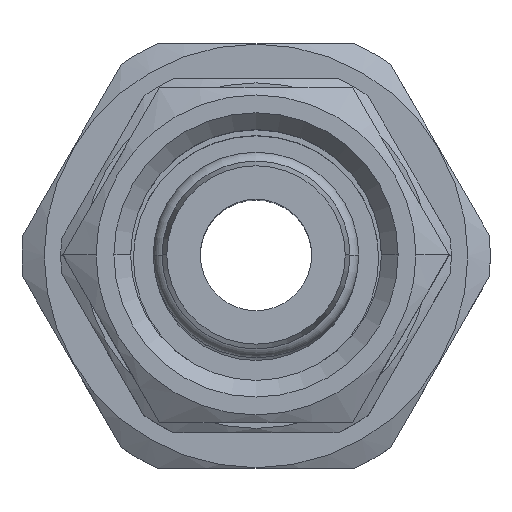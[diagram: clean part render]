
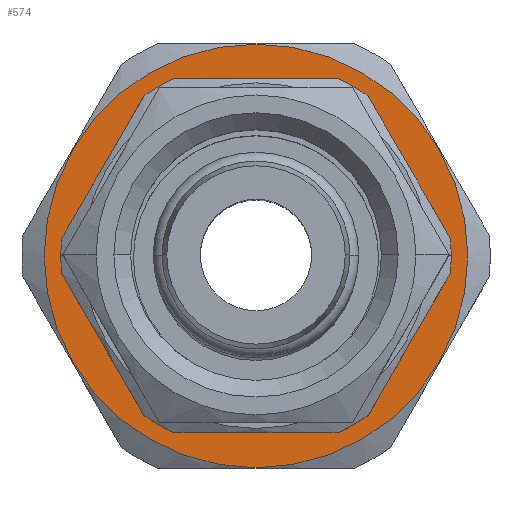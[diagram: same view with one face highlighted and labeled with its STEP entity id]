
A CAD part, top view. The second image highlights one B-rep face of the part: STEP entity #574.
In plain terms, the highlighted planar face has unit normal (0, 0, 1).
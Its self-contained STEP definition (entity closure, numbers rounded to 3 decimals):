
#51 = CARTESIAN_POINT ( 'NONE',  ( 0., 0., 55.5 ) ) ;
#242 = ORIENTED_EDGE ( 'NONE', *, *, #2686, .T. ) ;
#522 = ORIENTED_EDGE ( 'NONE', *, *, #2308, .T. ) ;
#530 = DIRECTION ( 'NONE',  ( 0., -1., 0. ) ) ;
#574 = ADVANCED_FACE ( 'NONE', ( #2743, #4221 ), #2003, .F. ) ;
#661 = AXIS2_PLACEMENT_3D ( 'NONE', #2672, #2715, #530 ) ;
#717 = AXIS2_PLACEMENT_3D ( 'NONE', #2355, #4146, #4193 ) ;
#734 = EDGE_CURVE ( 'NONE', #1959, #2959, #4251, .T. ) ;
#862 = DIRECTION ( 'NONE',  ( 0., -1., 0. ) ) ;
#1001 = CIRCLE ( 'NONE', #661, 19. ) ;
#1039 = DIRECTION ( 'NONE',  ( 0., -1., 0. ) ) ;
#1060 = AXIS2_PLACEMENT_3D ( 'NONE', #51, #2973, #862 ) ;
#1067 = DIRECTION ( 'NONE',  ( 0., 0., 1. ) ) ;
#1132 = VERTEX_POINT ( 'NONE', #4746 ) ;
#1391 = CARTESIAN_POINT ( 'NONE',  ( 0., -19., 55.5 ) ) ;
#1720 = AXIS2_PLACEMENT_3D ( 'NONE', #4266, #1067, #1039 ) ;
#1861 = EDGE_CURVE ( 'NONE', #2959, #1959, #1001, .T. ) ;
#1952 = DIRECTION ( 'NONE',  ( 0., -1., 0. ) ) ;
#1959 = VERTEX_POINT ( 'NONE', #3763 ) ;
#2003 = PLANE ( 'NONE',  #717 ) ;
#2135 = CIRCLE ( 'NONE', #1060, 15.7 ) ;
#2276 = CIRCLE ( 'NONE', #3041, 15.7 ) ;
#2308 = EDGE_CURVE ( 'NONE', #1132, #3069, #2276, .T. ) ;
#2355 = CARTESIAN_POINT ( 'NONE',  ( 0., 21., 55.5 ) ) ;
#2385 = ORIENTED_EDGE ( 'NONE', *, *, #1861, .T. ) ;
#2398 = CARTESIAN_POINT ( 'NONE',  ( 0., -15.7, 55.5 ) ) ;
#2672 = CARTESIAN_POINT ( 'NONE',  ( 0., 0., 55.5 ) ) ;
#2686 = EDGE_CURVE ( 'NONE', #3069, #1132, #2135, .T. ) ;
#2707 = CARTESIAN_POINT ( 'NONE',  ( 0., 0., 55.5 ) ) ;
#2715 = DIRECTION ( 'NONE',  ( 0., 0., 1. ) ) ;
#2743 = FACE_BOUND ( 'NONE', #3396, .T. ) ;
#2959 = VERTEX_POINT ( 'NONE', #1391 ) ;
#2973 = DIRECTION ( 'NONE',  ( 0., 0., -1. ) ) ;
#3041 = AXIS2_PLACEMENT_3D ( 'NONE', #2707, #3389, #1952 ) ;
#3069 = VERTEX_POINT ( 'NONE', #2398 ) ;
#3389 = DIRECTION ( 'NONE',  ( 0., 0., -1. ) ) ;
#3396 = EDGE_LOOP ( 'NONE', ( #522, #242 ) ) ;
#3763 = CARTESIAN_POINT ( 'NONE',  ( 0., 19., 55.5 ) ) ;
#4146 = DIRECTION ( 'NONE',  ( 0., 0., -1. ) ) ;
#4193 = DIRECTION ( 'NONE',  ( 0., -1., 0. ) ) ;
#4221 = FACE_OUTER_BOUND ( 'NONE', #4435, .T. ) ;
#4251 = CIRCLE ( 'NONE', #1720, 19. ) ;
#4266 = CARTESIAN_POINT ( 'NONE',  ( 0., 0., 55.5 ) ) ;
#4350 = ORIENTED_EDGE ( 'NONE', *, *, #734, .T. ) ;
#4435 = EDGE_LOOP ( 'NONE', ( #2385, #4350 ) ) ;
#4746 = CARTESIAN_POINT ( 'NONE',  ( 0., 15.7, 55.5 ) ) ;
